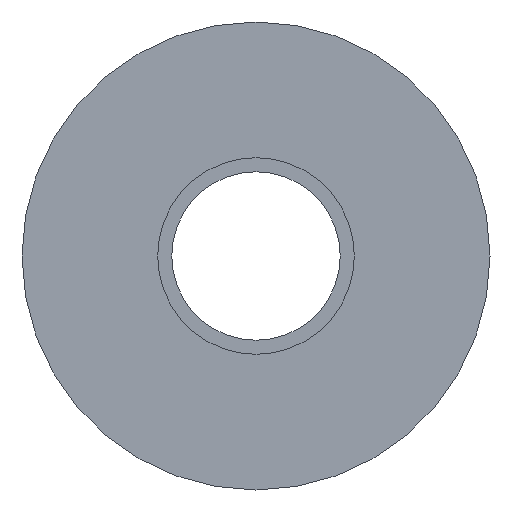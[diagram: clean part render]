
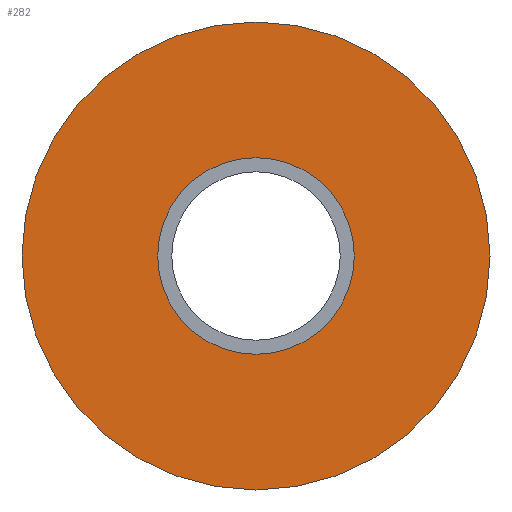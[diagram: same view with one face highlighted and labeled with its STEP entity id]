
A CAD part, left-side view. The second image highlights one B-rep face of the part: STEP entity #282.
In plain terms, the highlighted planar face has unit normal (-1, 0, 0).
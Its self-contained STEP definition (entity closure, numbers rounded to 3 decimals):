
#174=CARTESIAN_POINT('',(-13.4,10.5,0.));
#175=VERTEX_POINT('',#174);
#199=CARTESIAN_POINT('',(-13.4,-10.5,-0.));
#200=VERTEX_POINT('',#199);
#201=CARTESIAN_POINT('',(-13.4,0.,0.));
#202=DIRECTION('',(-1.,-0.,0.));
#203=DIRECTION('',(0.,-1.,0.));
#204=AXIS2_PLACEMENT_3D('',#201,#202,#203);
#205=CIRCLE('',#204,10.5);
#206=EDGE_CURVE('',#175,#200,#205,.T.);
#208=CARTESIAN_POINT('',(-13.4,0.,0.));
#209=DIRECTION('',(-1.,-0.,0.));
#210=DIRECTION('',(0.,-1.,0.));
#211=AXIS2_PLACEMENT_3D('',#208,#209,#210);
#212=CIRCLE('',#211,10.5);
#213=EDGE_CURVE('',#200,#175,#212,.T.);
#225=CARTESIAN_POINT('',(-13.4,25.,0.));
#226=VERTEX_POINT('',#225);
#233=CARTESIAN_POINT('',(-13.4,-25.,-0.));
#234=VERTEX_POINT('',#233);
#235=CARTESIAN_POINT('',(-13.4,0.,0.));
#236=DIRECTION('',(-1.,-0.,0.));
#237=DIRECTION('',(0.,-1.,0.));
#238=AXIS2_PLACEMENT_3D('',#235,#236,#237);
#239=CIRCLE('',#238,25.);
#240=EDGE_CURVE('',#234,#226,#239,.T.);
#242=CARTESIAN_POINT('',(-13.4,0.,0.));
#243=DIRECTION('',(-1.,-0.,0.));
#244=DIRECTION('',(0.,-1.,0.));
#245=AXIS2_PLACEMENT_3D('',#242,#243,#244);
#246=CIRCLE('',#245,25.);
#247=EDGE_CURVE('',#226,#234,#246,.T.);
#269=CARTESIAN_POINT('',(-13.4,0.,0.));
#270=DIRECTION('',(-1.,-0.,0.));
#271=DIRECTION('',(0.,-1.,0.));
#272=AXIS2_PLACEMENT_3D('',#269,#270,#271);
#273=PLANE('',#272);
#274=ORIENTED_EDGE('',*,*,#206,.F.);
#275=ORIENTED_EDGE('',*,*,#213,.F.);
#276=EDGE_LOOP('',(#274,#275));
#277=FACE_BOUND('',#276,.T.);
#278=ORIENTED_EDGE('',*,*,#240,.T.);
#279=ORIENTED_EDGE('',*,*,#247,.T.);
#280=EDGE_LOOP('',(#278,#279));
#281=FACE_BOUND('',#280,.T.);
#282=ADVANCED_FACE('',(#277,#281),#273,.T.);
